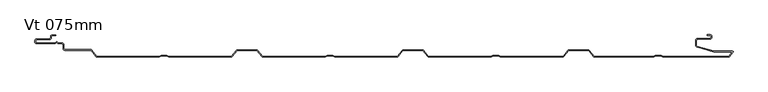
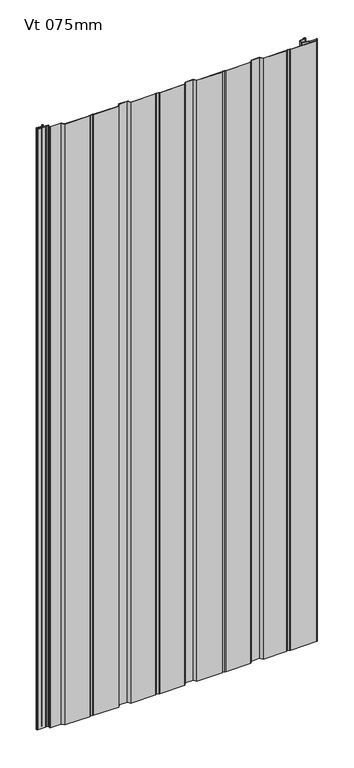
"""IFC4 building model written with IfcOpenShell, lengths in millimetres: plate geometry, KIP-MEX-KW-R19-CP-Vt-KW7_SL : Vt 075mm."""

from ifc_helpers import new_model, si_unit, point, frame_2d, origin, origin_with_axes, place, context, project, spatial, polyline, circle_curve, trimmed, segment, composite_curve, outline, extrude, source, transform, mapped, element, save


def vt_075mm_35e04bb8(model_context):
    return source(origin(), model_context, "Body", "SweptSolid", [
        extrude(outline(composite_curve([segment(polyline([(178.3805582, -74.0), (272.6636913, -74.0), (280.6636913, -64.0), (311.624941, -64.0), (319.624941, -74.0), (408.9083129, -74.0), (411.9084998, -72.4999975), (420.38061, -72.4999975), (423.3807969, -74.0), (522.656057, -74.0), (527.9339159, -67.2453862), (499.5757533, -67.2453862), (474.8467129, -60.1544872)]), True, "CONTINUOUS"), segment(trimmed(circle_curve(frame_2d((475.673632, -57.2706615)), 3.0000411), [point((474.8467129, -60.1544872))], [point((472.673591, -57.2706615))], False, "CARTESIAN"), True, "CONTINUOUS"), segment(polyline([(472.673591, -57.2706615), (472.673591, -49.7952225)]), True, "CONTINUOUS"), segment(trimmed(circle_curve(frame_2d((475.673571, -49.7952225)), 2.9999801), [point((472.673591, -49.7952225))], [point((475.7961762, -46.7977488))], False, "CARTESIAN"), True, "CONTINUOUS"), segment(polyline([(475.7961762, -46.7977488), (494.2350433, -46.7977488)]), True, "CONTINUOUS"), segment(trimmed(circle_curve(frame_2d((494.2350433, -45.2977438)), 1.500005), [point((494.2350433, -46.7977488))], [point((495.7350483, -45.2977438))], True, "CARTESIAN"), True, "CONTINUOUS"), segment(polyline([(495.7350483, -45.2977438), (495.7350483, -43.7430543)]), True, "CONTINUOUS"), segment(trimmed(circle_curve(frame_2d((494.2350469, -43.7430543)), 1.5000014), [point((495.7350483, -43.7430543))], [point((494.2350469, -42.2430529))], True, "CARTESIAN"), True, "CONTINUOUS"), segment(polyline([(494.2350469, -42.2430529), (489.7350458, -42.2430529), (489.7350458, -41.2439517), (494.2339235, -41.2439517)]), True, "CONTINUOUS"), segment(trimmed(circle_curve(frame_2d((494.2339235, -43.742605)), 2.4986533), [point((494.2339235, -41.2439517))], [point((496.7325767, -43.742605))], False, "CARTESIAN"), True, "CONTINUOUS"), segment(polyline([(496.7325767, -43.742605), (496.7325767, -45.3143146)]), True, "CONTINUOUS"), segment(trimmed(circle_curve(frame_2d((494.2374949, -45.2928768)), 2.4951739), [point((496.7325767, -45.3143146))], [point((494.2374949, -47.7880507))], False, "CARTESIAN"), True, "CONTINUOUS"), segment(polyline([(494.2374949, -47.7880507), (475.7063133, -47.7880507)]), True, "CONTINUOUS"), segment(trimmed(circle_curve(frame_2d((475.7063133, -49.804821)), 2.0167704), [point((475.7063133, -47.7880507))], [point((473.6895429, -49.804821))], True, "CARTESIAN"), True, "CONTINUOUS"), segment(polyline([(473.6895429, -49.804821), (473.6895429, -57.2734679)]), True, "CONTINUOUS"), segment(trimmed(circle_curve(frame_2d((475.6808258, -57.2734679)), 1.9912829), [point((473.6895429, -57.2734679))], [point((475.1313548, -59.18744))], True, "CARTESIAN"), True, "CONTINUOUS"), segment(polyline([(475.1313548, -59.18744), (499.7162879, -66.2453845), (527.9071444, -66.2453845)]), True, "CONTINUOUS"), segment(trimmed(circle_curve(frame_2d((527.9339159, -67.245026)), 1.0), [point((527.9071444, -66.2453845))], [point((528.72191, -67.8607089))], False, "CARTESIAN"), True, "CONTINUOUS"), segment(polyline([(528.72191, -67.8607089), (523.8944685, -74.0392071)]), True, "CONTINUOUS"), segment(trimmed(circle_curve(frame_2d((521.9244833, -72.5)), 2.5), [point((523.8944685, -74.0392071))], [point((521.9244833, -75.0))], False, "CARTESIAN"), True, "CONTINUOUS"), segment(polyline([(521.9244833, -75.0), (423.1447418, -75.0), (420.1445548, -73.4999975), (412.144555, -73.4999975), (409.144555, -74.9999065), (319.1443161, -74.9999065), (311.1443161, -65.0), (281.1443161, -65.0), (273.1443161, -75.0), (178.144503, -75.0), (175.1443161, -73.4999975), (167.1443162, -73.4999975), (164.1443162, -74.9999065), (69.1443161, -74.9999065), (61.1443161, -65.0), (31.1443161, -65.0), (23.1443161, -75.0), (-71.855497, -75.0), (-74.8556839, -73.4999975), (-82.8556838, -73.4999975), (-85.8556838, -74.9999065), (-180.8556839, -74.9999065), (-188.8556839, -65.0), (-218.8556839, -65.0), (-226.8556839, -75.0), (-321.855497, -75.0), (-324.8556839, -73.4999975), (-332.8556838, -73.4999975), (-335.8556838, -74.9999065), (-430.8556839, -74.9999065), (-438.7634979, -64.879999), (-478.2701405, -64.879999)]), True, "CONTINUOUS"), segment(trimmed(circle_curve(frame_2d((-478.2060105, -62.3808232)), 2.4999985), [point((-478.2701405, -64.879999))], [point((-480.706009, -62.3808232))], False, "CARTESIAN"), True, "CONTINUOUS"), segment(polyline([(-480.706009, -62.3808232), (-480.706009, -56.8808174)]), True, "CONTINUOUS"), segment(trimmed(circle_curve(frame_2d((-482.7060143, -56.8808174)), 2.0000053), [point((-480.706009, -56.8808174))], [point((-482.7060143, -54.8808121))], True, "CARTESIAN"), True, "CONTINUOUS"), segment(polyline([(-482.7060143, -54.8808121), (-488.7059907, -54.8808121), (-490.7060117, -52.8808646), (-492.7060327, -54.8809591), (-521.006198, -54.8809591)]), True, "CONTINUOUS"), segment(trimmed(circle_curve(frame_2d((-521.006198, -52.380744)), 2.5002152), [point((-521.006198, -54.8809591))], [point((-523.5064131, -52.380744))], False, "CARTESIAN"), True, "CONTINUOUS"), segment(polyline([(-523.5064131, -52.380744), (-523.5064131, -50.3976441)]), True, "CONTINUOUS"), segment(trimmed(circle_curve(frame_2d((-521.005617, -50.3976441)), 2.5007962), [point((-523.5064131, -50.3976441))], [point((-521.0540008, -47.897316))], False, "CARTESIAN"), True, "CONTINUOUS"), segment(polyline([(-521.0540008, -47.897316), (-502.0056632, -47.897316)]), True, "CONTINUOUS"), segment(trimmed(circle_curve(frame_2d((-502.0056632, -45.8957279)), 2.0015882), [point((-502.0056632, -47.897316))], [point((-500.0040756, -45.8942278))], True, "CARTESIAN"), True, "CONTINUOUS"), segment(polyline([(-500.0040756, -45.8942278), (-500.0040756, -44.4646208)]), True, "CONTINUOUS"), segment(trimmed(circle_curve(frame_2d((-497.505641, -44.3896216)), 2.4995601), [point((-500.0040756, -44.4646208))], [point((-497.5075142, -41.8900623))], False, "CARTESIAN"), True, "CONTINUOUS"), segment(polyline([(-497.5075142, -41.8900623), (-492.2480458, -41.8900623), (-492.2480458, -42.8880903), (-497.5062724, -42.8880903)]), True, "CONTINUOUS"), segment(trimmed(circle_curve(frame_2d((-497.5051478, -44.3886299)), 1.5005401), [point((-497.5062724, -42.8880903))], [point((-499.0056879, -44.3886299))], True, "CARTESIAN"), True, "CONTINUOUS"), segment(polyline([(-499.0056879, -44.3886299), (-499.0056879, -45.8136131)]), True, "CONTINUOUS"), segment(trimmed(circle_curve(frame_2d((-502.0059123, -45.8958545)), 3.0013514), [point((-499.0056879, -45.8136131))], [point((-502.0059123, -48.8972059))], False, "CARTESIAN"), True, "CONTINUOUS"), segment(polyline([(-502.0059123, -48.8972059), (-521.0430725, -48.8972058)]), True, "CONTINUOUS"), segment(trimmed(circle_curve(frame_2d((-521.0055876, -50.3975906)), 1.5008529), [point((-521.0430725, -48.8972058))], [point((-522.5064405, -50.3975906))], True, "CARTESIAN"), True, "CONTINUOUS"), segment(polyline([(-522.5064405, -50.3975906), (-522.5064405, -52.3807386)]), True, "CONTINUOUS"), segment(trimmed(circle_curve(frame_2d((-521.0062107, -52.3807386)), 1.5002298), [point((-522.5064405, -52.3807386))], [point((-521.0062107, -53.8809684))], True, "CARTESIAN"), True, "CONTINUOUS"), segment(polyline([(-521.0062107, -53.8809684), (-493.1202477, -53.8809684), (-490.7060117, -51.4666539), (-488.2917757, -53.8808114), (-482.7060145, -53.8808114)]), True, "CONTINUOUS"), segment(trimmed(circle_curve(frame_2d((-482.7060145, -56.8808171)), 3.0000056), [point((-482.7060145, -53.8808114))], [point((-479.7060088, -56.8808171))], False, "CARTESIAN"), True, "CONTINUOUS"), segment(polyline([(-479.7060088, -56.8808171), (-479.7060088, -62.3808232)]), True, "CONTINUOUS"), segment(trimmed(circle_curve(frame_2d((-478.2060104, -62.3808232)), 1.4999984), [point((-479.7060088, -62.3808232))], [point((-478.2556825, -63.8799989))], True, "CARTESIAN"), True, "CONTINUOUS"), segment(polyline([(-478.2556825, -63.8799989), (-438.275811, -63.8799989), (-430.367997, -74.0), (-336.0919259, -74.0), (-333.091739, -72.4999975), (-324.6196288, -72.4999975), (-321.6194418, -74.0), (-227.3363087, -74.0), (-219.3363087, -64.0), (-188.375059, -64.0), (-180.375059, -74.0), (-86.0919259, -74.0), (-83.091739, -72.4999975), (-74.6196288, -72.4999975), (-71.6194418, -74.0), (22.6636913, -74.0), (30.6636913, -64.0), (61.624941, -64.0), (69.624941, -74.0), (163.9080741, -74.0), (166.908261, -72.4999975), (175.3803712, -72.4999975), (178.3805582, -74.0)]), True, "CONTINUOUS")], self_intersect=False)), origin_with_axes(), (0.0, 0.0, 1.0), 2400.0),
    ])


if __name__ == "__main__":
    model = new_model("IFC4")
    model_context = context("Model", 3, world=origin())
    ifc_project = project(units=[si_unit("LENGTHUNIT", "METRE", prefix="MILLI")], contexts=[model_context])
    site = spatial("IfcSite", under=ifc_project)
    building = spatial("IfcBuilding", under=site)
    placement = place(None, origin())
    vt_075mm_shape = vt_075mm_35e04bb8(model_context)
    element("IfcPlate", 1, ObjectType="KIP-MEX-KW-R19-CP-Vt-KW7_SL : Vt 075mm", at=placement, inside=building, context=model_context, shape_type="MappedRepresentation", body=[
        mapped(vt_075mm_shape, transform((0.0, 0.0, 0.0), x_axis=(1.0, 0.0, 0.0), y_axis=(0.0, 1.0, 0.0), z_axis=(0.0, 0.0, 1.0))),
    ])
    save(model, "model.ifc")
